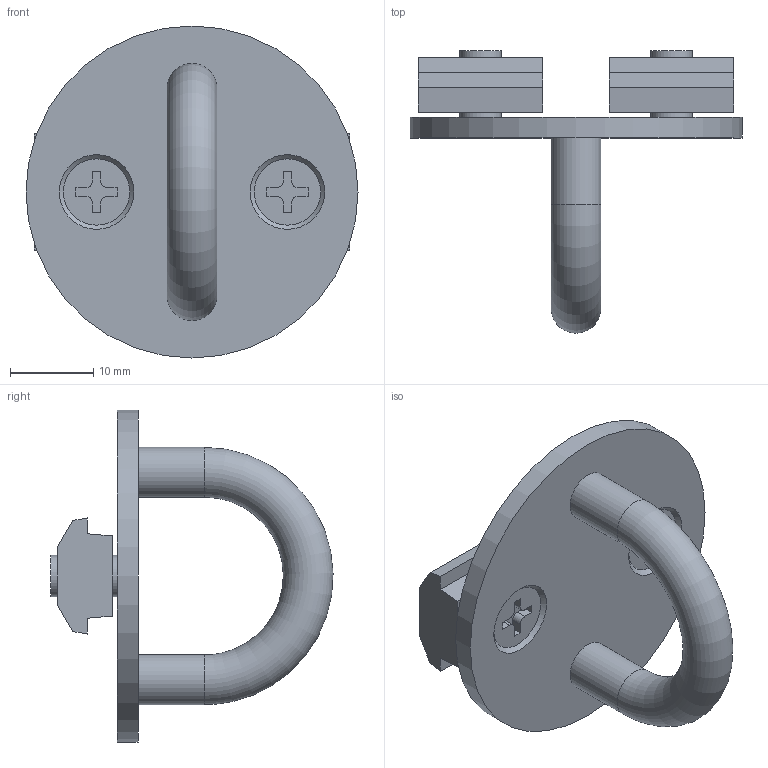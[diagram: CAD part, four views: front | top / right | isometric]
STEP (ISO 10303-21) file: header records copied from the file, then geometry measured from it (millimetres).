
FILE_DESCRIPTION(('STEP AP214'),'1');
FILE_NAME('RI6-B.stp','2017-07-18T05:33:31',(' '),(' '),'Spatial InterOp 3D',' ',' ');
FILE_SCHEMA(('automotive_design'));
Length unit declared in the file: millimetre
Products named in the file (4): RI6-B; RI6-H; NF40-M5; パーツ44
Assembly tree (5 placements, depth 2):
  RI6-B
    RI6-H
    NF40-M5  x2
    パーツ44  x2
Bounding box: 40 x 34 x 40 mm (x, y, z)
Volume: 6841.3 mm3; surface area: 5850.3 mm2
Topology: 5 solids, 5 shells, 78 faces, 193 edges, 127 vertices
Faces by surface type: plane 56, cylinder 17, cone 4, torus 1
Full cylindrical faces by diameter (mm): 5 x4, 6 x4, 40 x1
Entity records: 1689 total; most frequent: DIRECTION 220, CARTESIAN_POINT 214, ORIENTED_EDGE 190, EDGE_CURVE 95, AXIS2_PLACEMENT_3D 75, LINE 70, VECTOR 70, VERTEX_POINT 69
